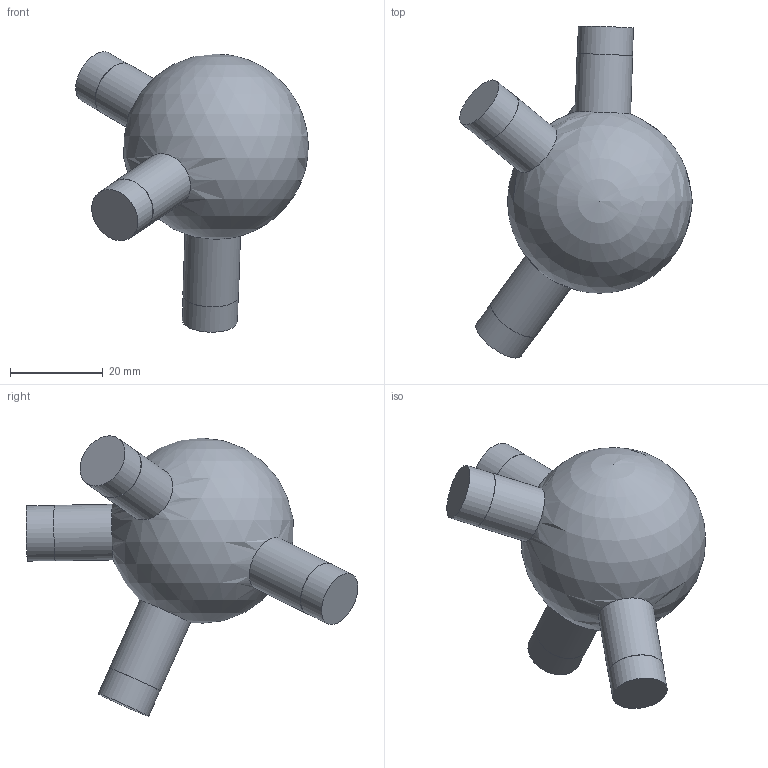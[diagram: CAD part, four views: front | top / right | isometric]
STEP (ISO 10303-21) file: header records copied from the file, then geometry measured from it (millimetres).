
FILE_DESCRIPTION(('Open CASCADE Model'),'2;1');
FILE_NAME('Open CASCADE Shape Model','2026-10-21T12:47:57',('Author'),( 'Open CASCADE'),'Open CASCADE STEP processor 7.9','Open CASCADE 7.9' ,'Unknown');
FILE_SCHEMA(('AUTOMOTIVE_DESIGN { 1 0 10303 214 1 1 1 1 }'));
Length unit declared in the file: millimetre
Products named in the file (1): Open CASCADE STEP translator 7.9 17
Bounding box: 50.19 x 71.64 x 60.52 mm (x, y, z)
Volume: 42209.8 mm3; surface area: 7993.2 mm2
Topology: 1 solids, 1 shells, 17 faces, 27 edges, 18 vertices
Faces by surface type: cylinder 8, plane 8, sphere 1
Full cylindrical faces by diameter (mm): 11.9 x4, 12 x4
Entity records: 976 total; most frequent: CARTESIAN_POINT 391, DIRECTION 120, ORIENTED_EDGE 48, PCURVE 48, DEFINITIONAL_REPRESENTATION 48, LINE 40, VECTOR 40, AXIS2_PLACEMENT_3D 34
